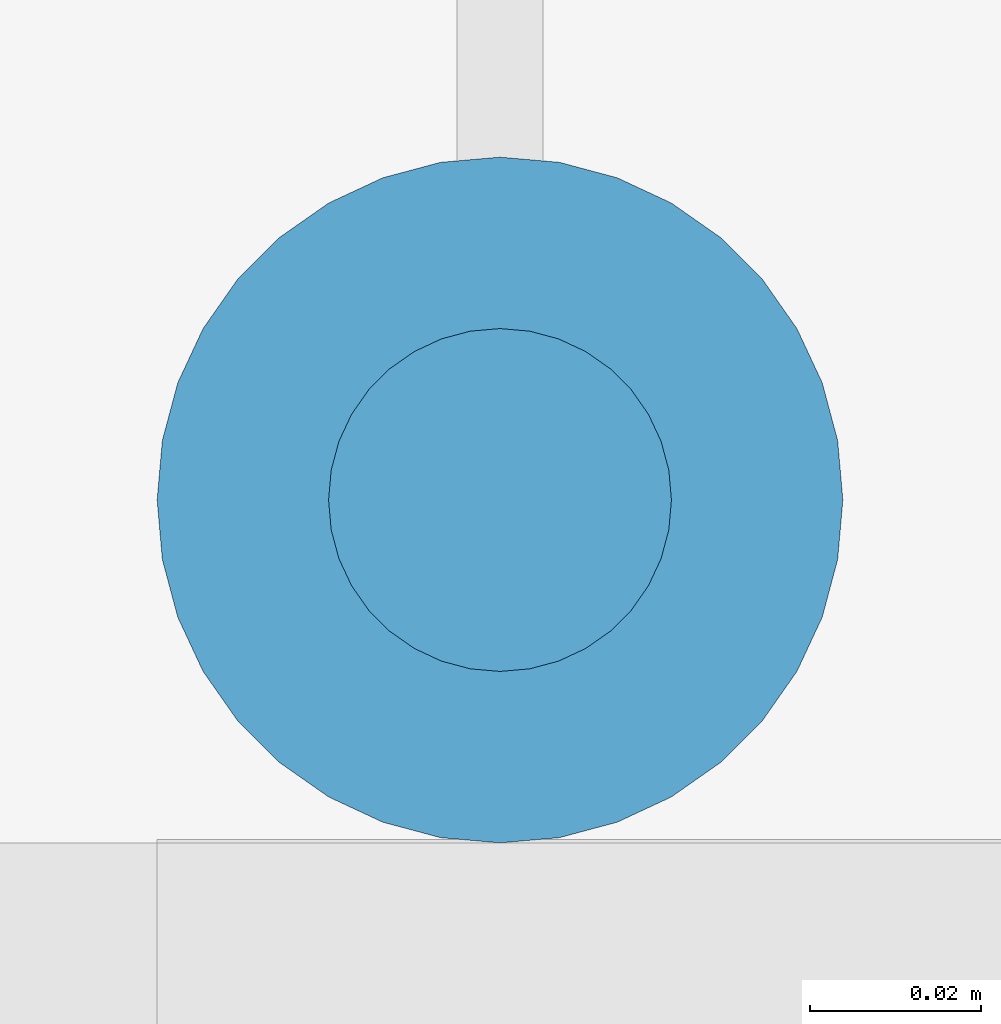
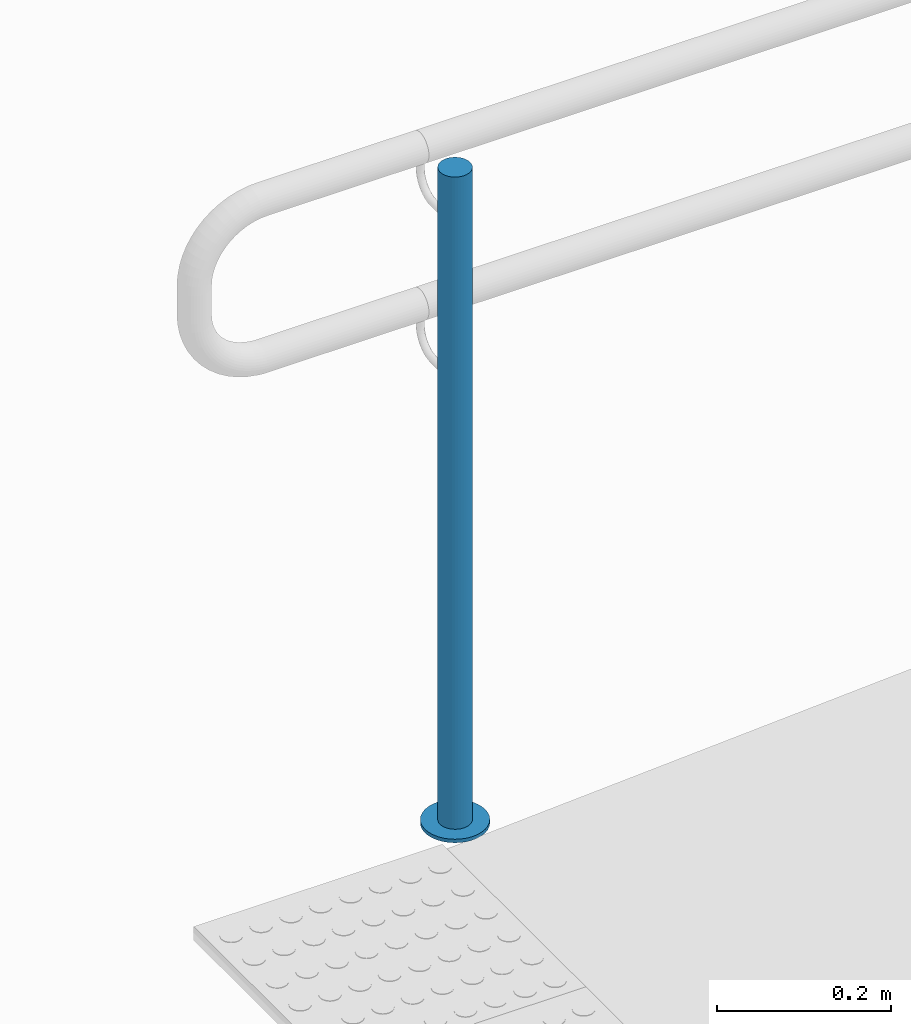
# One storey, part 88 of 237: 2 building element parts, 1 element without a shape of its own.
"""IFC2X3 building model written with IfcOpenShell, lengths in millimetres."""

from ifc_helpers import new_model, entity, si_unit, converted_unit, derived_unit, money_unit, direction, frame, origin_with_axes, place, context, subcontext, project, spatial, faceted_brep, material, type_object, element, aggregate, save


model = new_model("IFC2X3")

# Units and contexts
model_context = context("Model", 3, precision=0.01, world=origin_with_axes(), true_north=direction((0.0, 1.0)))
body_context = subcontext(model_context, "Body", "Model", "MODEL_VIEW")
ifc_project = project(units=[si_unit("LENGTHUNIT", "METRE", prefix="MILLI"), si_unit("AREAUNIT", "SQUARE_METRE"), si_unit("VOLUMEUNIT", "CUBIC_METRE"), converted_unit("PLANEANGLEUNIT", "DEGREE", entity("IfcPlaneAngleMeasure", 0.0174532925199), si_unit("PLANEANGLEUNIT", "RADIAN"), dimensions=[0, 0, 0, 0, 0, 0, 0]), money_unit("USD"), converted_unit("TIMEUNIT", "Year", entity("IfcTimeMeasure", 31556926.0), si_unit("TIMEUNIT", "SECOND"), dimensions=[0, 0, 1, 0, 0, 0, 0]), si_unit("MASSUNIT", "GRAM", prefix="KILO"), si_unit("THERMODYNAMICTEMPERATUREUNIT", "DEGREE_CELSIUS"), si_unit("LUMINOUSINTENSITYUNIT", "LUMEN"), si_unit("ENERGYUNIT", "JOULE", prefix="MEGA"), derived_unit("THERMALCONDUCTANCEUNIT", [(si_unit("POWERUNIT", "WATT"), 1), (si_unit("LENGTHUNIT", "METRE"), -1), (si_unit("THERMODYNAMICTEMPERATUREUNIT", "KELVIN"), -1)]), derived_unit("SPECIFICHEATCAPACITYUNIT", [(si_unit("ENERGYUNIT", "JOULE"), 1), (si_unit("MASSUNIT", "GRAM", prefix="KILO"), -1), (si_unit("THERMODYNAMICTEMPERATUREUNIT", "KELVIN"), -1)]), derived_unit("MASSDENSITYUNIT", [(si_unit("MASSUNIT", "GRAM", prefix="KILO"), 1), (si_unit("VOLUMEUNIT", "CUBIC_METRE"), -1)])], contexts=[model_context])

# Site, building, storey
site_placement = place(None, origin_with_axes())
site = spatial("IfcSite", under=ifc_project, at=site_placement, Name="Local", CompositionType="ELEMENT")
building_placement = place(site_placement, origin_with_axes())
building = spatial("IfcBuilding", under=site, at=building_placement, Name="Construção", CompositionType="ELEMENT")
storey_placement = place(building_placement, origin_with_axes())
storey = spatial("IfcBuildingStorey", under=building, at=storey_placement, Name="Pavimento Térreo", CompositionType="ELEMENT", Elevation=0.0)

# Railing, building element parts
railing_type = type_object("IfcRailingType", Name="Tipo de Guarda-Corpo", PredefinedType="NOTDEFINED")
railing_placement = place(storey_placement, frame((44000.0, 26000.0, -1614.15280207), z_axis=(0.0, 0.0, 1.0), x_axis=(1.0, 0.0, 0.0)))
railing = element("IfcRailing", 1, at=railing_placement, inside=storey, type_object=railing_type, Name="Guarda-Corpo - 001", PredefinedType="NOTDEFINED")
ifc_material_1 = material(Name="Aço - Inoxidável")
building_element_part_1_placement = place(railing_placement, origin_with_axes())
building_element_part_1 = element("IfcBuildingElementPart", 2, at=building_element_part_1_placement, material=ifc_material_1, Name="Aço - Inoxidável", context=body_context, shape_type="Brep", body=[
    faceted_brep([(798.971129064, -823.62475897, 5.0), (802.444092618, -823.92860391, 5.0), (802.444092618, -823.92860391, 920.0), (798.971129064, -823.62475897, 920.0), (805.917056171, -823.62475897, 5.0), (795.603689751, -822.722456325, 5.0), (792.444092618, -821.249111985, 5.0), (789.588340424, -819.249492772, 5.0), (787.123203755, -816.784356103, 5.0), (785.123584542, -813.92860391, 5.0), (783.650240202, -810.769006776, 5.0), (782.747937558, -807.401567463, 5.0), (782.444092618, -803.92860391, 5.0), (782.747937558, -800.455640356, 5.0), (783.650240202, -797.088201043, 5.0), (785.123584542, -793.92860391, 5.0), (787.123203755, -791.072851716, 5.0), (789.588340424, -788.607715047, 5.0), (792.444092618, -786.608095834, 5.0), (795.603689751, -785.134751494, 5.0), (798.971129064, -784.232448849, 5.0), (802.444092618, -783.92860391, 5.0), (805.917056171, -784.232448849, 5.0), (809.284495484, -785.134751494, 5.0), (812.444092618, -786.608095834, 5.0), (815.299844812, -788.607715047, 5.0), (817.76498148, -791.072851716, 5.0), (819.764600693, -793.92860391, 5.0), (821.237945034, -797.088201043, 5.0), (822.140247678, -800.455640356, 5.0), (822.444092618, -803.92860391, 5.0), (822.140247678, -807.401567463, 5.0), (821.237945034, -810.769006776, 5.0), (819.764600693, -813.92860391, 5.0), (817.76498148, -816.784356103, 5.0), (815.299844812, -819.249492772, 5.0), (812.444092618, -821.249111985, 5.0), (809.284495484, -822.722456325, 5.0), (805.917056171, -823.62475897, 920.0), (782.747937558, -800.455640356, 920.0), (782.444092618, -803.92860391, 920.0), (782.747937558, -807.401567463, 920.0), (783.650240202, -810.769006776, 920.0), (785.123584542, -813.92860391, 920.0), (787.123203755, -816.784356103, 920.0), (789.588340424, -819.249492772, 920.0), (792.444092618, -821.249111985, 920.0), (795.603689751, -822.722456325, 920.0), (809.284495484, -822.722456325, 920.0), (812.444092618, -821.249111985, 920.0), (815.299844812, -819.249492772, 920.0), (817.76498148, -816.784356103, 920.0), (819.764600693, -813.92860391, 920.0), (821.237945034, -810.769006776, 920.0), (822.140247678, -807.401567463, 920.0), (822.444092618, -803.92860391, 920.0), (822.140247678, -800.455640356, 920.0), (821.237945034, -797.088201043, 920.0), (819.764600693, -793.92860391, 920.0), (817.76498148, -791.072851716, 920.0), (815.299844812, -788.607715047, 920.0), (812.444092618, -786.608095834, 920.0), (809.284495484, -785.134751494, 920.0), (805.917056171, -784.232448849, 920.0), (802.444092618, -783.92860391, 920.0), (798.971129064, -784.232448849, 920.0), (795.603689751, -785.134751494, 920.0), (792.444092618, -786.608095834, 920.0), (789.588340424, -788.607715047, 920.0), (787.123203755, -791.072851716, 920.0), (785.123584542, -793.92860391, 920.0), (783.650240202, -797.088201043, 920.0)], [[[0, 1, 2, 3]], [[4, 1, 0, 5, 6, 7, 8, 9, 10, 11, 12, 13, 14, 15, 16, 17, 18, 19, 20, 21, 22, 23, 24, 25, 26, 27, 28, 29, 30, 31, 32, 33, 34, 35, 36, 37]], [[1, 4, 38, 2]], [[39, 40, 41, 42, 43, 44, 45, 46, 47, 3, 2, 38, 48, 49, 50, 51, 52, 53, 54, 55, 56, 57, 58, 59, 60, 61, 62, 63, 64, 65, 66, 67, 68, 69, 70, 71]], [[5, 0, 3, 47]], [[6, 5, 47, 46]], [[7, 6, 46, 45]], [[8, 7, 45, 44]], [[9, 8, 44, 43]], [[10, 9, 43, 42]], [[11, 10, 42, 41]], [[12, 11, 41, 40]], [[13, 12, 40, 39]], [[14, 13, 39, 71]], [[15, 14, 71, 70]], [[16, 15, 70, 69]], [[17, 16, 69, 68]], [[18, 17, 68, 67]], [[19, 18, 67, 66]], [[20, 19, 66, 65]], [[21, 20, 65, 64]], [[22, 21, 64, 63]], [[23, 22, 63, 62]], [[24, 23, 62, 61]], [[25, 24, 61, 60]], [[26, 25, 60, 59]], [[27, 26, 59, 58]], [[28, 27, 58, 57]], [[29, 28, 57, 56]], [[30, 29, 56, 55]], [[31, 30, 55, 54]], [[32, 31, 54, 53]], [[33, 32, 53, 52]], [[34, 33, 52, 51]], [[35, 34, 51, 50]], [[36, 35, 50, 49]], [[37, 36, 49, 48]], [[4, 37, 48, 38]]]),
])
ifc_material_2 = material(Name="Alumínio")
building_element_part_2_placement = place(railing_placement, origin_with_axes())
building_element_part_2 = element("IfcBuildingElementPart", 3, at=building_element_part_2_placement, material=ifc_material_2, Name="Alumínio", context=body_context, shape_type="Brep", body=[
    faceted_brep([(842.444092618, -803.92860391, 0.0), (841.836402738, -796.982676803, 0.0), (841.836402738, -796.982676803, 5.0), (842.444092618, -803.92860391, 5.0), (841.836402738, -810.874531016, 0.0), (840.031797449, -817.609409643, 0.0), (837.085108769, -823.92860391, 0.0), (833.085870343, -829.640108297, 0.0), (828.155597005, -834.570381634, 0.0), (822.444092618, -838.569620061, 0.0), (816.124898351, -841.516308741, 0.0), (809.390019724, -843.32091403, 0.0), (802.444092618, -843.92860391, 0.0), (795.498165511, -843.32091403, 0.0), (788.763286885, -841.516308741, 0.0), (782.444092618, -838.569620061, 0.0), (776.73258823, -834.570381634, 0.0), (771.802314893, -829.640108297, 0.0), (767.803076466, -823.92860391, 0.0), (764.856387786, -817.609409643, 0.0), (763.051782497, -810.874531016, 0.0), (762.444092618, -803.92860391, 0.0), (763.051782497, -796.982676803, 0.0), (764.856387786, -790.247798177, 0.0), (767.803076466, -783.92860391, 0.0), (771.802314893, -778.217099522, 0.0), (776.73258823, -773.286826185, 0.0), (782.444092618, -769.287587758, 0.0), (788.763286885, -766.340899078, 0.0), (795.498165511, -764.536293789, 0.0), (802.444092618, -763.92860391, 0.0), (809.390019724, -764.536293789, 0.0), (816.124898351, -766.340899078, 0.0), (822.444092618, -769.287587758, 0.0), (828.155597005, -773.286826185, 0.0), (833.085870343, -778.217099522, 0.0), (837.085108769, -783.92860391, 0.0), (840.031797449, -790.247798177, 0.0), (840.031797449, -790.247798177, 5.0), (837.085108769, -783.92860391, 5.0), (833.085870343, -778.217099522, 5.0), (828.155597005, -773.286826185, 5.0), (822.444092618, -769.287587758, 5.0), (816.124898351, -766.340899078, 5.0), (809.390019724, -764.536293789, 5.0), (802.444092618, -763.92860391, 5.0), (795.498165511, -764.536293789, 5.0), (788.763286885, -766.340899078, 5.0), (782.444092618, -769.287587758, 5.0), (776.73258823, -773.286826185, 5.0), (771.802314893, -778.217099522, 5.0), (767.803076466, -783.92860391, 5.0), (764.856387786, -790.247798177, 5.0), (763.051782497, -796.982676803, 5.0), (762.444092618, -803.92860391, 5.0), (763.051782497, -810.874531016, 5.0), (764.856387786, -817.609409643, 5.0), (767.803076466, -823.92860391, 5.0), (771.802314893, -829.640108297, 5.0), (776.73258823, -834.570381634, 5.0), (782.444092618, -838.569620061, 5.0), (788.763286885, -841.516308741, 5.0), (795.498165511, -843.32091403, 5.0), (802.444092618, -843.92860391, 5.0), (809.390019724, -843.32091403, 5.0), (816.124898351, -841.516308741, 5.0), (822.444092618, -838.569620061, 5.0), (828.155597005, -834.570381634, 5.0), (833.085870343, -829.640108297, 5.0), (837.085108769, -823.92860391, 5.0), (840.031797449, -817.609409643, 5.0), (841.836402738, -810.874531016, 5.0)], [[[0, 1, 2, 3]], [[0, 4, 5, 6, 7, 8, 9, 10, 11, 12, 13, 14, 15, 16, 17, 18, 19, 20, 21, 22, 23, 24, 25, 26, 27, 28, 29, 30, 31, 32, 33, 34, 35, 36, 37, 1]], [[1, 37, 38, 2]], [[3, 2, 38, 39, 40, 41, 42, 43, 44, 45, 46, 47, 48, 49, 50, 51, 52, 53, 54, 55, 56, 57, 58, 59, 60, 61, 62, 63, 64, 65, 66, 67, 68, 69, 70, 71]], [[4, 0, 3, 71]], [[5, 4, 71, 70]], [[6, 5, 70, 69]], [[7, 6, 69, 68]], [[8, 7, 68, 67]], [[9, 8, 67, 66]], [[10, 9, 66, 65]], [[11, 10, 65, 64]], [[12, 11, 64, 63]], [[13, 12, 63, 62]], [[14, 13, 62, 61]], [[15, 14, 61, 60]], [[16, 15, 60, 59]], [[17, 16, 59, 58]], [[18, 17, 58, 57]], [[19, 18, 57, 56]], [[20, 19, 56, 55]], [[21, 20, 55, 54]], [[22, 21, 54, 53]], [[23, 22, 53, 52]], [[24, 23, 52, 51]], [[25, 24, 51, 50]], [[26, 25, 50, 49]], [[27, 26, 49, 48]], [[28, 27, 48, 47]], [[29, 28, 47, 46]], [[30, 29, 46, 45]], [[31, 30, 45, 44]], [[32, 31, 44, 43]], [[33, 32, 43, 42]], [[34, 33, 42, 41]], [[35, 34, 41, 40]], [[36, 35, 40, 39]], [[37, 36, 39, 38]]]),
])
aggregate(railing, [building_element_part_1, building_element_part_2])

save(model, "model.ifc")
